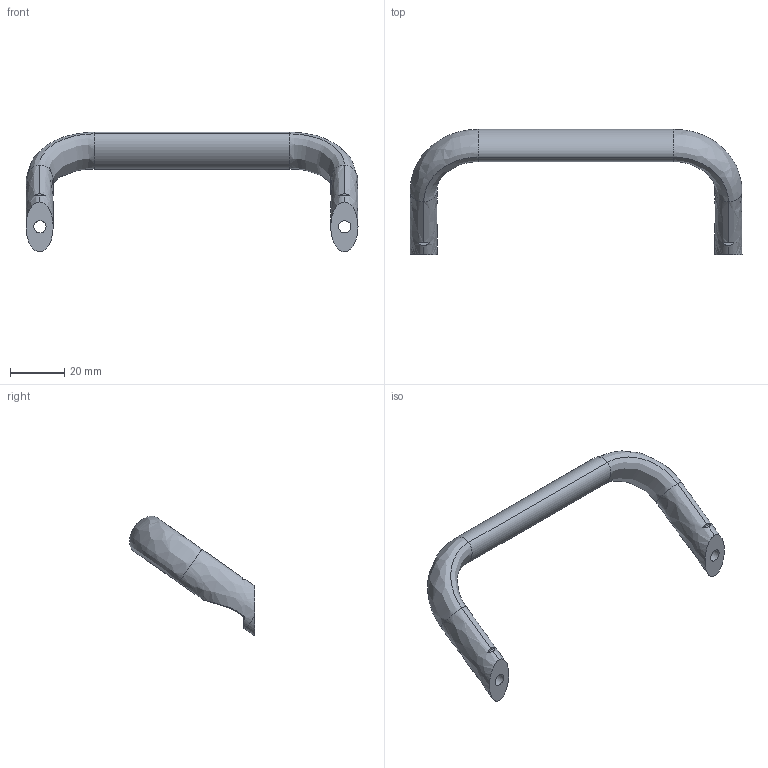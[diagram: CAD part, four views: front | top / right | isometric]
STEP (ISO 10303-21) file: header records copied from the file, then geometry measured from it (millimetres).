
FILE_DESCRIPTION((''),'2;1');
FILE_NAME('C:\Documents and Settings\akey00\デスクトップ\NIC2Ｄ_3D_CAD\3_06完\【提出用】取手\3D_HDL-0435-4\Imported Components\3D_HDL-0435-4\3D_HDL-0435-4.stp','2013-03-06T18:30:09',(''),('NIC Autotec, Inc.'),'Autodesk Inventor 2013','Autodesk Inventor 2013','');
FILE_SCHEMA(('CONFIG_CONTROL_DESIGN'));
Length unit declared in the file: millimetre
Products named in the file (1): 3D_HDL-0435-4
Bounding box: 122 x 45.94 x 43.94 mm (x, y, z)
Volume: 21684.9 mm3; surface area: 8060 mm2
Topology: 1 solids, 1 shells, 38 faces, 112 edges, 76 vertices
Faces by surface type: bspline 22, plane 12, cylinder 4
Full cylindrical faces by diameter (mm): 4.5 x2
Entity records: 3524 total; most frequent: CARTESIAN_POINT 2602, ORIENTED_EDGE 220, DIRECTION 116, EDGE_CURVE 110, VERTEX_POINT 76, B_SPLINE_CURVE_WITH_KNOTS 54, EDGE_LOOP 44, AXIS2_PLACEMENT_3D 43
